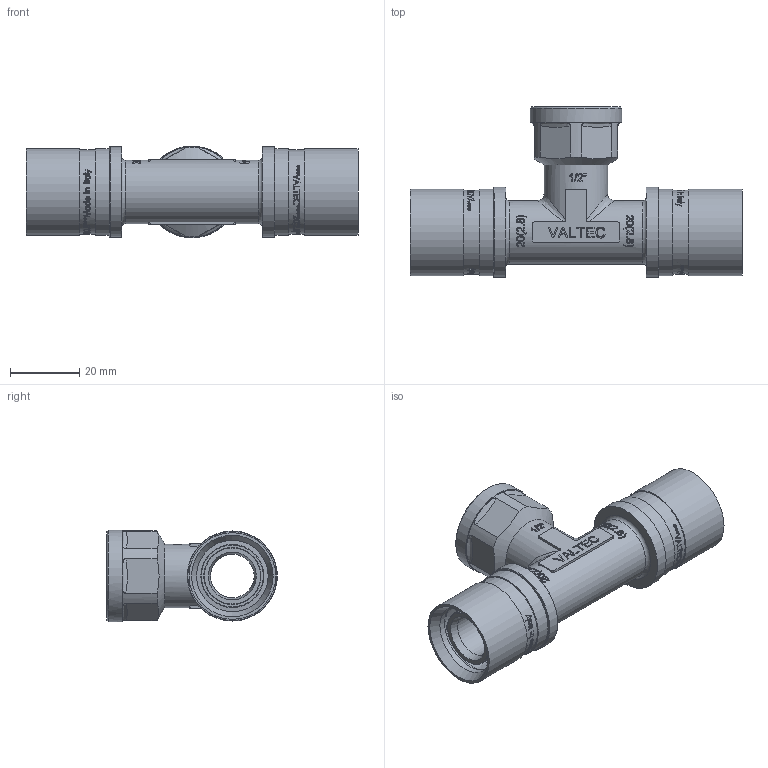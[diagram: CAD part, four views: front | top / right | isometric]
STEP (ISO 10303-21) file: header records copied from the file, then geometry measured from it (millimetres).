
FILE_DESCRIPTION(/* description */ (''),/* implementation_level */ '2;1');
FILE_NAME(/* name */ 'F:\Артём\00000\Работа удаленка\Аксеальные фитинги\VTm.432.BG.200420.stp',/* time_stamp */ '2021-01-26T15:28:06+03:00',/* author */ ('almis'),/* organization */ (''),/* preprocessor_version */ 'ST-DEVELOPER v18',/* originating_system */ 'Autodesk Inventor 2020',/* authorisation */ '');
FILE_SCHEMA (('AUTOMOTIVE_DESIGN { 1 0 10303 214 3 1 1 }'));
Length unit declared in the file: millimetre
Products named in the file (1): VTm.403.BG.001616
Bounding box: 95.82 x 49.3 x 26.5 mm (x, y, z)
Volume: 23250.7 mm3; surface area: 22318.7 mm2
Topology: 1 solids, 1 shells, 1788 faces, 4865 edges, 3270 vertices
Faces by surface type: bspline 890, plane 640, cylinder 215, torus 24, cone 19
Full cylindrical faces by diameter (mm): 12.6 x2, 15.7 x10, 16.5 x8, 18.2 x2, 18.3 x2, 18.6 x6, 20.65 x4, 22.2 x7, 24.3 x2, 25 x4, 26 x3, 26.5 x1
Entity records: 75692 total; most frequent: CARTESIAN_POINT 35879, ORIENTED_EDGE 9730, DIRECTION 5581, EDGE_CURVE 4865, VERTEX_POINT 3270, LINE 2263, VECTOR 2263, EDGE_LOOP 1983
